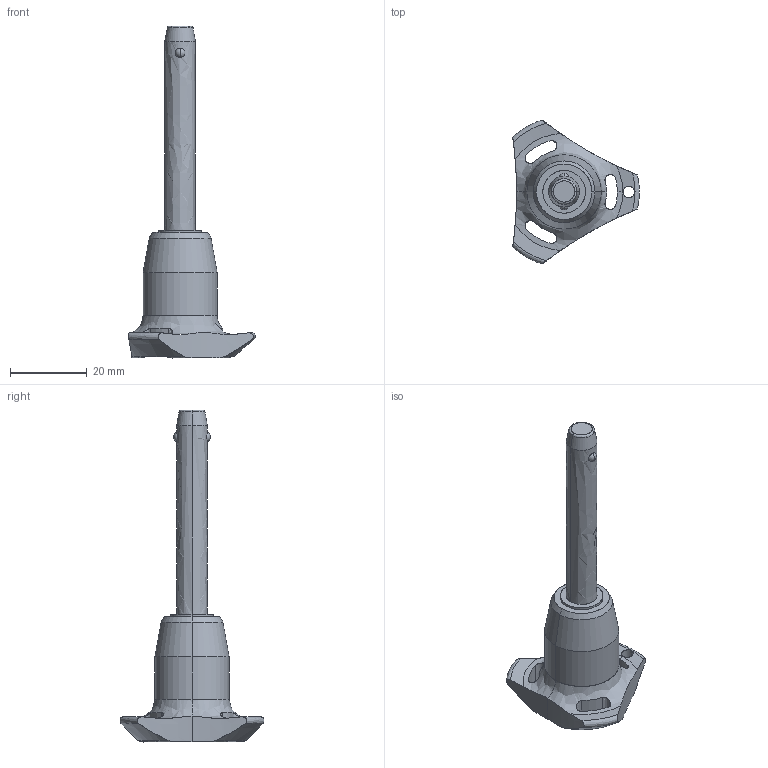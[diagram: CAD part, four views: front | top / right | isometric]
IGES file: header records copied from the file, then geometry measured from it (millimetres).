
Start section: SolidWorks IGES file using analytic representation for surfaces
Global section: file name: C:\Users\ianosborn\Desktop\QR1724_v2\QR1724_v2_20251112_IGES\QR1724.M08-045-S.igs; native system: SolidWorks 2019; preprocessor: SolidWorks 2019; author: IanOsborn; date: 251112.124956; units: millimetre
Bounding box: 33 x 37.51 x 86.5 mm (x, y, z)
Surface area: 5185.6 mm2 (no closed solid volume)
Topology: 0 solids, 0 shells, 65 faces, 1274 edges, 1270 vertices
Faces by surface type: revolution 50, bspline 15
